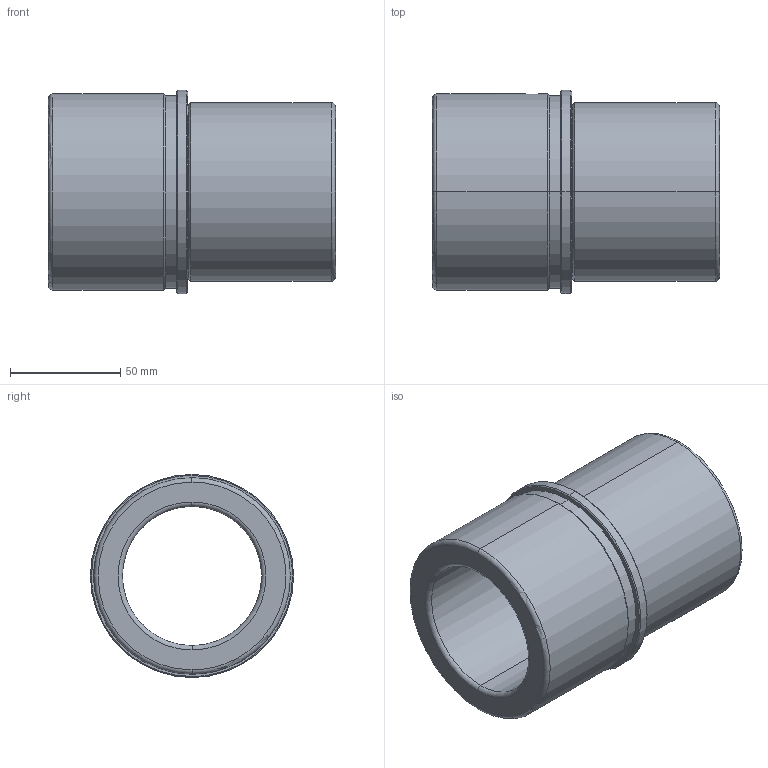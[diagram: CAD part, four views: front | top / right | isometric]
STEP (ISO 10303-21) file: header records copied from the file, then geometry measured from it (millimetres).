
FILE_DESCRIPTION(('CATIA V5 STEP Exchange'),'2;1');
FILE_NAME('C:\Users\Utente\Desktop\IO LAVORO\3D X SITO CF\X SITO\FAMO\FAMO-SF1-D63 x 130.stp','2021-01-06T17:04:32+00:00',('none'),('none'),'CATIA Version 5 Release 20 GA (IN-10)','CATIA V5 STEP AP203','none');
FILE_SCHEMA(('CONFIG_CONTROL_DESIGN'));
Length unit declared in the file: millimetre
Products named in the file (1): FAMO-SF1-D63 x 130
Bounding box: 130 x 92 x 92 mm (x, y, z)
Volume: 330247 mm3; surface area: 67828.5 mm2
Topology: 1 solids, 1 shells, 37 faces, 125 edges, 93 vertices
Faces by surface type: cylinder 14, cone 10, torus 8, plane 5
Entity records: 1673 total; most frequent: CARTESIAN_POINT 548, ORIENTED_EDGE 250, DIRECTION 179, EDGE_CURVE 125, AXIS2_PLACEMENT_3D 119, VERTEX_POINT 93, CIRCLE 81, EDGE_LOOP 44
